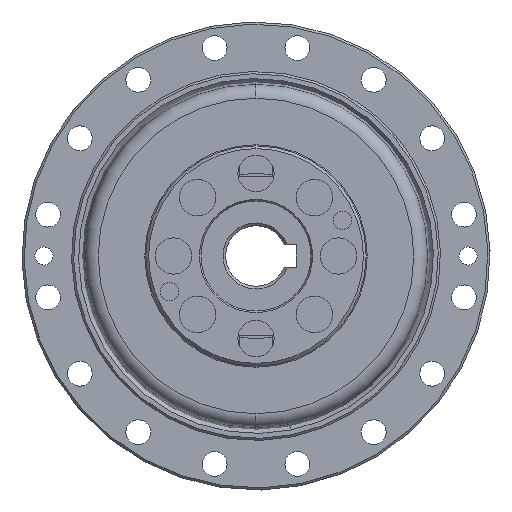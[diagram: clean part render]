
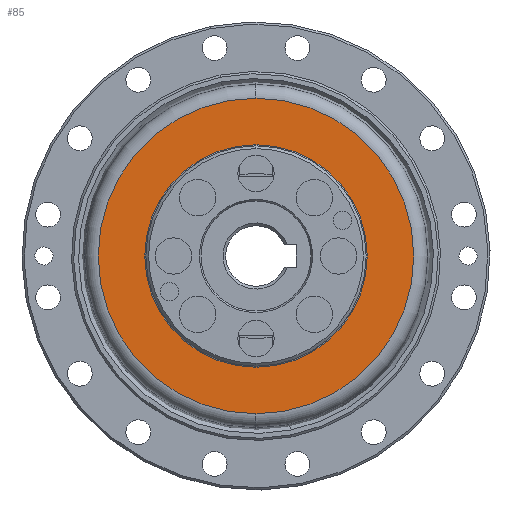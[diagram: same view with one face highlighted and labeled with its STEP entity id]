
A CAD part, left-side view. The second image highlights one B-rep face of the part: STEP entity #85.
In plain terms, the highlighted planar face has unit normal (-1, 0, 0).
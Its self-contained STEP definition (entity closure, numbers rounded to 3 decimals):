
#85 = ADVANCED_FACE ( 'NONE', ( #10957, #11448 ), #5028, .T. ) ;
#279 = CIRCLE ( 'NONE', #7018, 28.65 ) ;
#545 = DIRECTION ( 'NONE',  ( -1., 0., 0. ) ) ;
#576 = DIRECTION ( 'NONE',  ( 0., 0., 1. ) ) ;
#910 = ORIENTED_EDGE ( 'NONE', *, *, #10501, .T. ) ;
#1043 = VERTEX_POINT ( 'NONE', #9590 ) ;
#1189 = ORIENTED_EDGE ( 'NONE', *, *, #5079, .F. ) ;
#1311 = DIRECTION ( 'NONE',  ( 1., 0., 0. ) ) ;
#1625 = DIRECTION ( 'NONE',  ( 1., 0., 0. ) ) ;
#1808 = EDGE_CURVE ( 'NONE', #10363, #1043, #11827, .T. ) ;
#2451 = CIRCLE ( 'NONE', #7061, 20.2 ) ;
#2500 = ORIENTED_EDGE ( 'NONE', *, *, #1808, .T. ) ;
#2822 = AXIS2_PLACEMENT_3D ( 'NONE', #6564, #1625, #3630 ) ;
#2939 = AXIS2_PLACEMENT_3D ( 'NONE', #7634, #9126, #7648 ) ;
#3630 = DIRECTION ( 'NONE',  ( 0., 0., -1. ) ) ;
#4524 = CARTESIAN_POINT ( 'NONE',  ( -31.59, 0., 0. ) ) ;
#5028 = PLANE ( 'NONE',  #11398 ) ;
#5079 = EDGE_CURVE ( 'NONE', #9190, #7383, #279, .T. ) ;
#5728 = EDGE_LOOP ( 'NONE', ( #10510, #1189 ) ) ;
#6564 = CARTESIAN_POINT ( 'NONE',  ( -31.59, 0., 0. ) ) ;
#6821 = DIRECTION ( 'NONE',  ( 1., 0., 0. ) ) ;
#7018 = AXIS2_PLACEMENT_3D ( 'NONE', #10498, #6821, #9589 ) ;
#7061 = AXIS2_PLACEMENT_3D ( 'NONE', #7125, #1311, #8041 ) ;
#7125 = CARTESIAN_POINT ( 'NONE',  ( -31.59, 0., 0. ) ) ;
#7383 = VERTEX_POINT ( 'NONE', #12418 ) ;
#7634 = CARTESIAN_POINT ( 'NONE',  ( -31.59, 0., 0. ) ) ;
#7648 = DIRECTION ( 'NONE',  ( 0., 0., -1. ) ) ;
#8041 = DIRECTION ( 'NONE',  ( 0., 0., -1. ) ) ;
#8793 = CARTESIAN_POINT ( 'NONE',  ( -31.59, 0., 20.2 ) ) ;
#8987 = EDGE_CURVE ( 'NONE', #7383, #9190, #10726, .T. ) ;
#9058 = EDGE_LOOP ( 'NONE', ( #910, #2500 ) ) ;
#9126 = DIRECTION ( 'NONE',  ( 1., 0., 0. ) ) ;
#9144 = CARTESIAN_POINT ( 'NONE',  ( -31.59, 0., 28.65 ) ) ;
#9190 = VERTEX_POINT ( 'NONE', #9144 ) ;
#9589 = DIRECTION ( 'NONE',  ( 0., 0., -1. ) ) ;
#9590 = CARTESIAN_POINT ( 'NONE',  ( -31.59, 0., -20.2 ) ) ;
#10363 = VERTEX_POINT ( 'NONE', #8793 ) ;
#10498 = CARTESIAN_POINT ( 'NONE',  ( -31.59, 0., 0. ) ) ;
#10501 = EDGE_CURVE ( 'NONE', #1043, #10363, #2451, .T. ) ;
#10510 = ORIENTED_EDGE ( 'NONE', *, *, #8987, .F. ) ;
#10726 = CIRCLE ( 'NONE', #2939, 28.65 ) ;
#10957 = FACE_BOUND ( 'NONE', #9058, .T. ) ;
#11398 = AXIS2_PLACEMENT_3D ( 'NONE', #4524, #545, #576 ) ;
#11448 = FACE_OUTER_BOUND ( 'NONE', #5728, .T. ) ;
#11827 = CIRCLE ( 'NONE', #2822, 20.2 ) ;
#12418 = CARTESIAN_POINT ( 'NONE',  ( -31.59, 0., -28.65 ) ) ;
